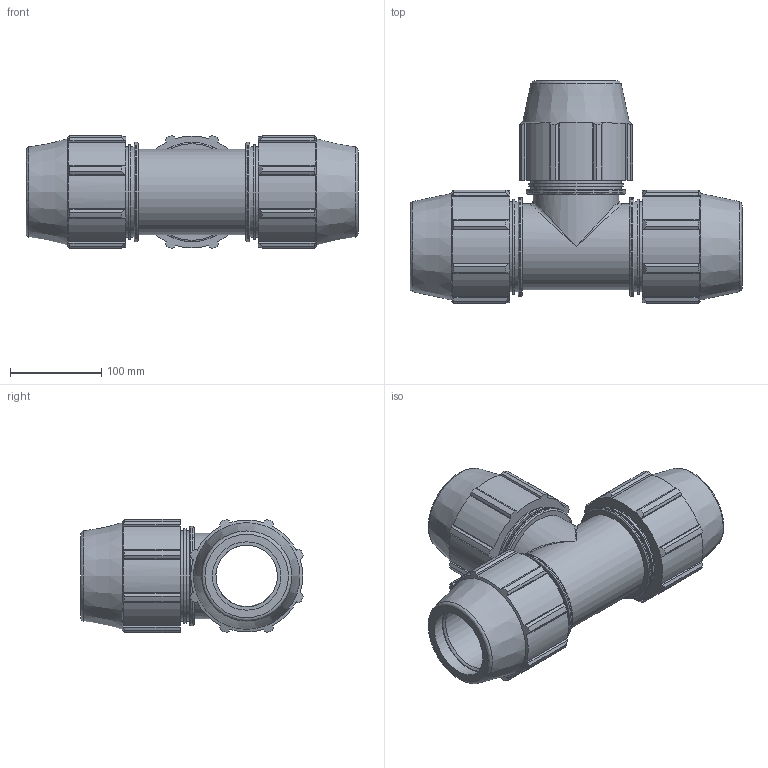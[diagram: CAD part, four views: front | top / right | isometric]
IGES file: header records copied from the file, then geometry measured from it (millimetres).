
Global section: file name: 870400075_180400075_840406075.ipt; native system: Autodesk Inventor 2015; preprocessor: unknown; author: KIM; date: 20180325.201205; units: millimetre
Bounding box: 364 x 244.1 x 124.2 mm (x, y, z)
Volume: 2642836.6 mm3; surface area: 339639.1 mm2
Topology: 1 solids, 1 shells, 226 faces, 630 edges, 423 vertices
Faces by surface type: plane 120, cylinder 62, cone 22, revolution 20, bspline 2
Full cylindrical faces by diameter (mm): 94.05 x2, 99 x6, 103.95 x3, 108.9 x3
